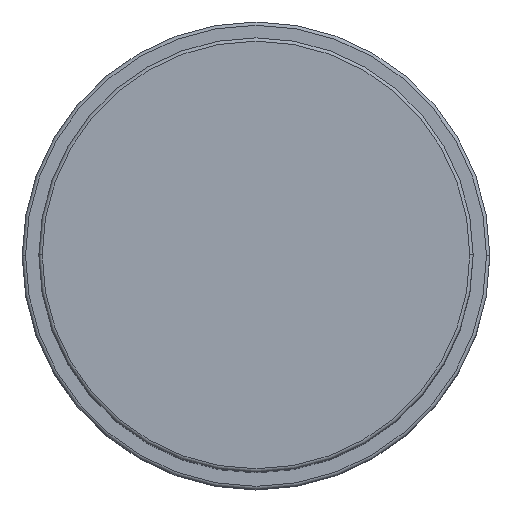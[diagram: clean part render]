
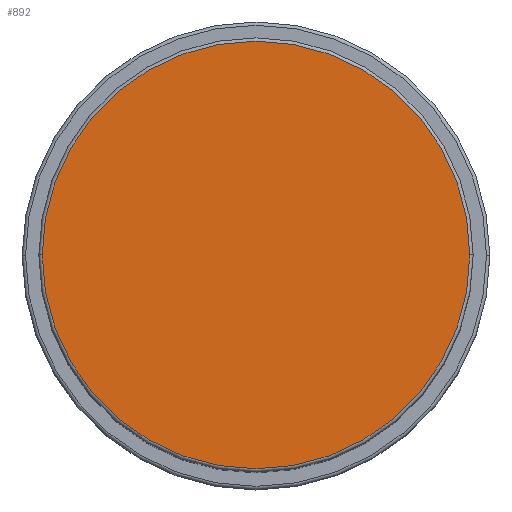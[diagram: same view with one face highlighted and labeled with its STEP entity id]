
A CAD part, top view. The second image highlights one B-rep face of the part: STEP entity #892.
In plain terms, the highlighted planar face has unit normal (0, 0, 1).
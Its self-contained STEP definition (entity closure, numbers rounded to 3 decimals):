
#10 = DIRECTION ( 'NONE',  ( 1., 0., 0. ) ) ;
#20 = CARTESIAN_POINT ( 'NONE',  ( 0., 0., 102. ) ) ;
#120 = VERTEX_POINT ( 'NONE', #1510 ) ;
#193 = DIRECTION ( 'NONE',  ( 0., 0., 1. ) ) ;
#371 = ORIENTED_EDGE ( 'NONE', *, *, #1128, .T. ) ;
#374 = DIRECTION ( 'NONE',  ( 1., 0., 0. ) ) ;
#426 = EDGE_LOOP ( 'NONE', ( #1290, #371 ) ) ;
#474 = FACE_OUTER_BOUND ( 'NONE', #426, .T. ) ;
#594 = DIRECTION ( 'NONE',  ( 0., 0., 1. ) ) ;
#672 = AXIS2_PLACEMENT_3D ( 'NONE', #20, #594, #10 ) ;
#821 = CARTESIAN_POINT ( 'NONE',  ( 0., 0., 102. ) ) ;
#892 = ADVANCED_FACE ( 'NONE', ( #474 ), #904, .T. ) ;
#904 = PLANE ( 'NONE',  #923 ) ;
#923 = AXIS2_PLACEMENT_3D ( 'NONE', #1315, #193, #1040 ) ;
#940 = EDGE_CURVE ( 'NONE', #1634, #120, #1282, .T. ) ;
#989 = CIRCLE ( 'NONE', #672, 32. ) ;
#1040 = DIRECTION ( 'NONE',  ( 1., 0., 0. ) ) ;
#1128 = EDGE_CURVE ( 'NONE', #120, #1634, #989, .T. ) ;
#1282 = CIRCLE ( 'NONE', #1285, 32. ) ;
#1285 = AXIS2_PLACEMENT_3D ( 'NONE', #821, #1774, #374 ) ;
#1290 = ORIENTED_EDGE ( 'NONE', *, *, #940, .T. ) ;
#1315 = CARTESIAN_POINT ( 'NONE',  ( 0., 0., 102. ) ) ;
#1510 = CARTESIAN_POINT ( 'NONE',  ( -32., 0., 102. ) ) ;
#1634 = VERTEX_POINT ( 'NONE', #1702 ) ;
#1702 = CARTESIAN_POINT ( 'NONE',  ( 32., 0., 102. ) ) ;
#1774 = DIRECTION ( 'NONE',  ( 0., 0., 1. ) ) ;
